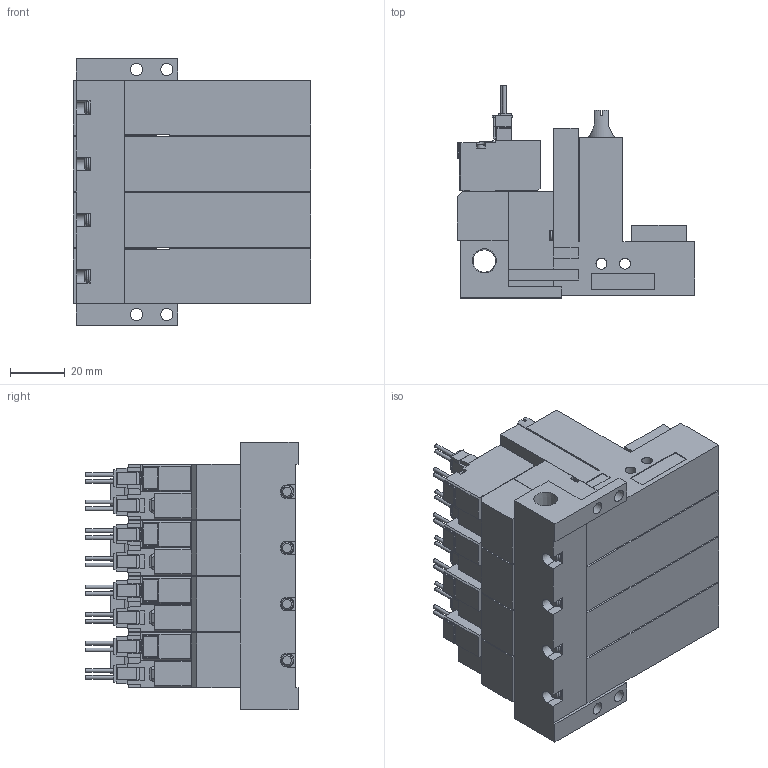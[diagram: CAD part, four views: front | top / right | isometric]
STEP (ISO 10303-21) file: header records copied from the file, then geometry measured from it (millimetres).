
FILE_DESCRIPTION(('STEP AP203'),'1');
FILE_NAME('ZL5ALR404.stp','2025-02-18T23:25:39',(' '),(' '),'Spatial InterOp 3D',' ',' ');
FILE_SCHEMA(('CONFIG_CONTROL_DESIGN'));
Length unit declared in the file: millimetre
Products named in the file (5): BMC22M※※※※ZL5ALR404; Solenoid valve A; Pressure sensor ZL; Unit L; Base MR40R
Assembly tree (13 placements, depth 2):
  BMC22M※※※※ZL5ALR404
    Solenoid valve A  x4
    Pressure sensor ZL  x4
    Unit L  x4
    Base MR40R
Bounding box: 86.6 x 77.45 x 97.5 mm (x, y, z)
Volume: 312102.1 mm3; surface area: 89007.8 mm2
Topology: 13 solids, 13 shells, 1405 faces, 3815 edges, 2512 vertices
Faces by surface type: plane 1206, cylinder 157, cone 30, torus 12
Full cylindrical faces by diameter (mm): 1.4 x16, 2.5 x4, 3 x16, 3.5 x16, 3.6 x4, 4 x8, 4.134 x4, 4.5 x4, 5.2 x4, 6 x4, 6.6 x4, 8.279 x1
Entity records: 12961 total; most frequent: CARTESIAN_POINT 2444, ORIENTED_EDGE 2054, DIRECTION 2051, EDGE_CURVE 1027, LINE 851, VECTOR 851, VERTEX_POINT 713, AXIS2_PLACEMENT_3D 600
